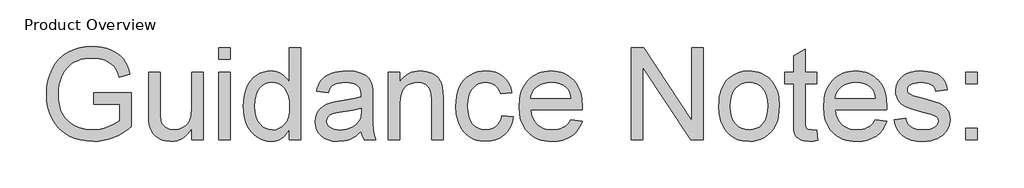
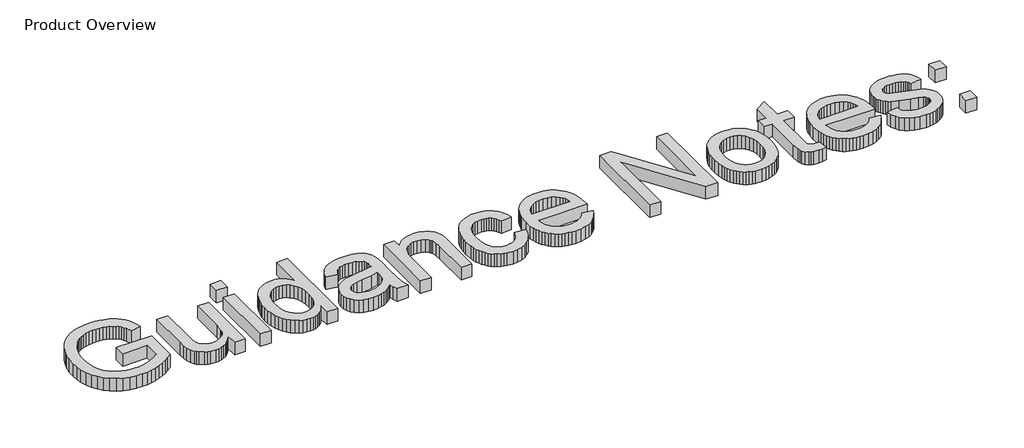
# One storey, part 9 of 11: 1 proxy.
"""IFC4 building model written with IfcOpenShell, lengths in millimetres."""

from ifc_helpers import new_model, si_unit, origin, origin_with_axes, place, context, project, spatial, polyline, outline, extrude, element, save

model = new_model("IFC4")

# Units and contexts
model_context = context("Model", 3, world=origin())
ifc_project = project(units=[si_unit("LENGTHUNIT", "METRE", prefix="MILLI")], contexts=[model_context])

# Site, building, storey
site = spatial("IfcSite", under=ifc_project)
building = spatial("IfcBuilding", under=site)
storey = spatial("IfcBuildingStorey", under=building, Name="Product Overview", Elevation=0.0)

# Proxy
placement = place(None, origin())
element("IfcBuildingElementProxy", 1, Name="1000mm", ObjectType="1000mm", at=placement, inside=storey, context=model_context, shape_type="SweptSolid", body=[
    extrude(outline(polyline([(8665.372592, -8459.5655223), (8665.372592, -8337.1412799), (9063.2513799, -8337.1412799), (9063.2513799, -8703.2184579), (9015.2874387, -8739.2194345), (8966.5613349, -8770.4681028), (8917.0730684, -8796.9644629), (8866.8226393, -8818.7085147), (8815.8698251, -8835.6554252), (8764.2744031, -8847.7603613), (8712.0363734, -8855.023323), (8659.1557359, -8857.4443102), (8588.8350239, -8853.5961361), (8521.8170167, -8842.0516137), (8458.1017143, -8822.8107431), (8397.6891166, -8795.8735242), (8342.5294634, -8761.643455), (8294.5729945, -8720.5240332), (8253.8197097, -8672.5152589), (8220.269609, -8617.6171322), (8194.0646641, -8557.5856158), (8175.3468463, -8494.1766729), (8164.1161556, -8427.3903033), (8160.372592, -8357.2265072), (8164.1012112, -8287.0552388), (8175.2870688, -8219.2900133), (8193.9301648, -8153.9308307), (8220.0304992, -8090.9776909), (8253.1247967, -8033.1953015), (8292.7497819, -7983.3483703), (8338.9054548, -7941.4368972), (8391.5918155, -7907.4608822), (8449.6656199, -7881.2036319), (8511.9836242, -7862.4484532), (8578.5458283, -7851.1953459), (8649.3522321, -7847.4443102), (8701.0447925, -7849.6187154), (8750.1968107, -7856.1419309), (8796.8082868, -7867.0139568), (8840.8792208, -7882.2347931), (8881.3709792, -7901.3336923), (8917.2449286, -7923.8399068), (8948.5010691, -7949.7534366), (8975.1394007, -7979.0742818), (8998.0117521, -8012.4674666), (9017.9699523, -8050.5980152), (9035.0140012, -8093.4659277), (9049.1438988, -8141.0712041), (8936.2840503, -8172.872814), (8911.08785, -8108.3430436), (8896.449844, -8082.0185437), (8880.4519007, -8059.6543007), (8861.9806649, -8040.286403), (8839.9227814, -8022.950939), (8814.2782501, -8007.6479087), (8785.0470712, -7994.3773121), (8753.1782117, -7983.6547298), (8719.6206389, -7975.9957425), (8684.3743528, -7971.4003501), (8647.4393534, -7969.8685526), (8603.6598345, -7971.519905), (8562.9439106, -7976.4739622), (8525.2915817, -7984.7307241), (8490.7028477, -7996.2901909), (8459.2449582, -8010.5321712), (8430.985163, -8026.836474), (8405.923462, -8045.2030992), (8384.0598552, -8065.6320469), (8348.0439343, -8110.6743646), (8321.0544102, -8159.9608822), (8304.3167208, -8205.2423097), (8292.3612284, -8252.3768386), (8285.1879329, -8301.3644688), (8282.7968344, -8352.2052003), (8285.6736248, -8413.3351275), (8294.3039959, -8469.2793599), (8308.6879477, -8520.0378974), (8328.8254802, -8565.6107401), (8354.4550671, -8605.8260278), (8385.315182, -8640.5119001), (8421.4058247, -8669.6683573), (8462.7269954, -8693.2953992), (8507.3433987, -8711.5499417), (8553.3197392, -8724.5889006), (8600.6560171, -8732.412276), (8649.3522321, -8735.0200678), (8692.0109235, -8733.0548837), (8734.1465622, -8727.1593315), (8775.759148, -8717.3334112), (8816.848681, -8703.5771227), (8888.6713017, -8671.088072), (8940.8271374, -8636.5068102), (8940.8271374, -8459.5655223), (8665.372592, -8459.5655223)])), origin_with_axes(), (0.0, 0.0, 1.0), 150.0),
    extrude(outline(polyline([(9705.9786526, -8842.1412799), (9705.9786526, -8718.5214882), (9684.7427092, -8751.0815246), (9661.6835532, -8779.3002228), (9636.8011846, -8803.1775829), (9610.0956034, -8822.7136047), (9581.5668096, -8837.9082883), (9551.2148032, -8848.7616338), (9519.0395842, -8855.2736411), (9485.0411526, -8857.4443102), (9425.4131341, -8851.347009), (9397.1458667, -8843.7253826), (9369.9097606, -8833.0551056), (9323.3431176, -8805.5574731), (9305.2156022, -8789.4773358), (9290.5252909, -8771.8429844), (9268.4375186, -8730.8954229), (9254.061039, -8681.6985715), (9248.6810674, -8635.3112609), (9246.8877435, -8567.8822837), (9246.8877435, -8122.8988556), (9369.3119859, -8122.8988556), (9369.3119859, -8510.2568102), (9371.1650873, -8587.7284011), (9376.7243912, -8635.0721511), (9384.0546025, -8657.1375068), (9394.5679637, -8676.7071535), (9408.2644747, -8693.7810911), (9425.1441356, -8708.3593197), (9444.6988378, -8720.023397), (9466.4204731, -8728.3548807), (9490.3090414, -8733.353771), (9516.3645427, -8735.0200678), (9543.1971511, -8733.3164101), (9569.1779305, -8728.2054371), (9594.3068812, -8719.6871487), (9618.584003, -8707.761545), (9640.6941918, -8692.8993735), (9659.3223434, -8675.5713817), (9674.4684579, -8655.7775695), (9686.1325352, -8633.5179371), (9694.8152115, -8607.3727696), (9701.0171232, -8575.9223523), (9705.9786526, -8497.1057685), (9705.9786526, -8122.8988556), (9828.402895, -8122.8988556), (9828.402895, -8842.1412799), (9705.9786526, -8842.1412799)])), origin_with_axes(), (0.0, 0.0, 1.0), 150.0),
    extrude(outline(polyline([(9996.7362284, -8842.1412799), (9996.7362284, -8122.8988556), (10119.1604708, -8122.8988556), (10119.1604708, -8842.1412799), (9996.7362284, -8842.1412799)])), origin_with_axes(), (0.0, 0.0, 1.0), 150.0),
    extrude(outline(polyline([(9996.7362284, -7985.1715829), (9996.7362284, -7862.7473405), (10119.1604708, -7862.7473405), (10119.1604708, -7985.1715829), (9996.7362284, -7985.1715829)])), origin_with_axes(), (0.0, 0.0, 1.0), 150.0),
    extrude(outline(polyline([(10746.5847132, -8842.1412799), (10746.5847132, -8726.6512231), (10729.2380409, -8757.3058529), (10709.9560733, -8783.8731987), (10688.7388103, -8806.3532605), (10665.586252, -8824.7460384), (10640.4983984, -8839.0515323), (10613.4752494, -8849.2697422), (10584.5168051, -8855.4006682), (10553.6230655, -8857.4443102), (10513.2135011, -8854.4853258), (10474.4777056, -8845.6083727), (10437.4156791, -8830.8134508), (10402.0274215, -8810.1005602), (10369.4188159, -8784.089892), (10340.6957454, -8753.4016374), (10315.8582099, -8718.0357963), (10294.9062094, -8677.9923689), (10278.2731306, -8634.0335177), (10266.39236, -8586.9214054), (10259.2638976, -8536.6560319), (10256.8877435, -8483.2373973), (10259.0770931, -8430.7976187), (10265.6451417, -8380.8386047), (10276.5918895, -8333.3603554), (10291.9173363, -8288.3628708), (10311.6140101, -8247.161255), (10335.6744386, -8211.0706123), (10364.0986218, -8180.0909425), (10396.8865598, -8154.2222458), (10432.8800642, -8133.8231868), (10470.9209466, -8119.2524305), (10511.0092072, -8110.5099766), (10553.1448458, -8107.5958253), (10583.9601275, -8109.6805643), (10613.0418628, -8115.9347813), (10640.3900517, -8126.3584763), (10666.0046943, -8140.9516492), (10689.6018474, -8158.8774157), (10710.8975683, -8179.2988912), (10729.8918569, -8202.2160757), (10746.5847132, -8227.6289693), (10746.5847132, -7862.7473405), (10869.0089556, -7862.7473405), (10869.0089556, -8842.1412799), (10746.5847132, -8842.1412799)]), holes=[polyline([(10379.3119859, -8482.7591776), (10382.7641344, -8542.1256697), (10393.1205797, -8593.4969262), (10410.3813219, -8636.8729471), (10434.5463609, -8672.2537325), (10463.4039308, -8699.7140042), (10494.7422653, -8719.328484), (10528.5613645, -8731.0971718), (10564.8612284, -8735.0200678), (10601.3329524, -8731.2765042), (10634.9503027, -8720.0458135), (10665.7132791, -8701.3279957), (10693.6218818, -8675.1230507), (10716.7931205, -8641.2217575), (10733.3440053, -8599.4148949), (10743.2745362, -8549.702463), (10746.5847132, -8492.0844617), (10743.2147588, -8428.9146286), (10733.1048955, -8374.7413036), (10716.2551234, -8329.5644866), (10692.6654424, -8293.3841776), (10664.1441208, -8265.6623796), (10632.4994267, -8245.8610952), (10597.7313603, -8233.9803246), (10559.8399215, -8230.0200678), (10522.8227281, -8233.8234088), (10489.0036289, -8245.2334319), (10458.382624, -8264.250137), (10430.9597132, -8290.8735242), (10408.3638325, -8325.6864237), (10392.2239177, -8369.2716658), (10382.5399689, -8421.6292504), (10379.3119859, -8482.7591776)])]), origin_with_axes(), (0.0, 0.0, 1.0), 150.0),
    extrude(outline(polyline([(11511.7362284, -8750.3230981), (11482.7067983, -8777.5666764), (11453.2439817, -8800.4763888), (11423.3477784, -8819.0522351), (11393.0181886, -8833.2942155), (11361.9114917, -8843.8598819), (11329.6839675, -8851.4067865), (11261.8664367, -8857.4443102), (11207.3568634, -8853.8128294), (11159.5573103, -8842.9183869), (11118.4677772, -8824.7609828), (11084.0882643, -8799.340617), (11056.9418244, -8768.2712811), (11037.5515101, -8733.1669664), (11025.9173215, -8694.0276731), (11022.0392587, -8650.8534011), (11027.8974499, -8600.1023358), (11045.4720238, -8554.0139125), (11072.5811029, -8514.5607875), (11107.0428098, -8483.715617), (11147.5420404, -8460.4024068), (11192.7636905, -8443.5451625), (11236.8196801, -8434.1601009), (11298.6893534, -8425.1337041), (11423.863359, -8405.7658064), (11472.1934372, -8394.8265308), (11511.0188988, -8383.0503708), (11511.7362284, -8355.7918481), (11509.6290728, -8326.1123381), (11503.3076062, -8301.1552477), (11492.7718285, -8280.9205768), (11478.0217397, -8265.4083253), (11452.5266521, -8249.9259626), (11421.4722606, -8238.8671322), (11384.858565, -8232.2318339), (11342.6855655, -8230.0200678), (11303.4715503, -8231.4920878), (11269.7570617, -8235.9081478), (11241.5420996, -8243.2682478), (11218.826664, -8253.5723878), (11200.1611514, -8267.6275636), (11184.0959585, -8286.2407709), (11170.6310851, -8309.4120096), (11159.7665314, -8337.1412799), (11037.342289, -8321.8382496), (11046.6601009, -8286.5695469), (11058.5931767, -8254.887492), (11073.1415166, -8226.7920848), (11090.3051204, -8202.2833253), (11110.8237343, -8180.8680495), (11135.4371043, -8162.0530933), (11164.1452305, -8145.8384567), (11196.9481128, -8132.2241397), (11233.1807271, -8121.4492522), (11272.1780489, -8113.7529039), (11313.9400784, -8109.135095), (11358.4668155, -8107.5958253), (11441.2287118, -8113.0355744), (11476.1761106, -8119.8352607), (11506.8344765, -8129.3548215), (11556.3003264, -8153.8934698), (11575.3618646, -8168.2475328), (11590.6424784, -8183.9914219), (11613.4176914, -8221.2028921), (11628.1827246, -8267.0820943), (11632.6660342, -8309.4045375), (11634.1604708, -8374.2033064), (11634.1604708, -8526.5162799), (11635.7146848, -8659.1923571), (11640.3773268, -8739.2044901), (11649.583056, -8791.778768), (11664.7665314, -8842.1412799), (11542.342289, -8842.1412799), (11522.7352814, -8799.5797269), (11511.7362284, -8750.3230981)]), holes=[polyline([(11511.7362284, -8505.4746132), (11429.4824405, -8525.8587278), (11314.2314935, -8543.0148594), (11250.71794, -8552.399921), (11208.9036052, -8562.8609769), (11181.4956389, -8576.4304608), (11161.2011905, -8595.1408064), (11148.6479234, -8617.5573547), (11144.4635011, -8642.2454465), (11146.7425168, -8661.2696239), (11153.5795641, -8678.649921), (11164.9746428, -8694.3863379), (11180.927753, -8708.4788746), (11201.289451, -8720.0906466), (11225.9102932, -8728.3847695), (11254.7902796, -8733.3612432), (11287.9294102, -8735.0200678), (11321.7634537, -8733.189383), (11353.6846185, -8727.6973287), (11383.6929045, -8718.5439048), (11411.7883117, -8705.7291113), (11437.1339556, -8690.3139983), (11458.8929518, -8673.3596156), (11477.0653003, -8654.8659632), (11491.6510011, -8634.8330412), (11500.1244563, -8616.8998026), (11506.1769244, -8595.1408064), (11511.0188988, -8540.1455412), (11511.7362284, -8505.4746132)])]), origin_with_axes(), (0.0, 0.0, 1.0), 150.0),
    extrude(outline(polyline([(11802.4938041, -8842.1412799), (11802.4938041, -8122.8988556), (11924.9180465, -8122.8988556), (11924.9180465, -8223.324992), (11945.1153565, -8196.2009686), (11967.4497108, -8172.6934816), (11991.9211094, -8152.8025311), (12018.5295522, -8136.528117), (12047.2750393, -8123.8702394), (12078.1575707, -8114.8288983), (12111.1771463, -8109.4040936), (12146.3337662, -8107.5958253), (12206.6791142, -8113.4241279), (12261.943378, -8130.9090356), (12286.6464142, -8143.477247), (12308.0318013, -8157.868671), (12326.0995392, -8174.0833076), (12340.849628, -8192.1211568), (12363.1167326, -8233.5768268), (12377.5529897, -8282.1460147), (12382.3949641, -8328.5931028), (12384.0089556, -8400.5053897), (12384.0089556, -8842.1412799), (12261.5847132, -8842.1412799), (12261.5847132, -8417.0039693), (12258.0578429, -8353.6996369), (12247.4772321, -8308.6872079), (12239.0710265, -8291.6581034), (12227.9598908, -8276.4372671), (12197.6228287, -8251.4203992), (12158.7375896, -8235.3701506), (12113.575717, -8230.0200678), (12076.4016077, -8233.0238852), (12041.8726512, -8242.0353376), (12009.9888473, -8257.054425), (11980.7501962, -8278.0811473), (11956.3236307, -8307.506603), (11938.8760839, -8347.7218907), (11928.4075559, -8398.7270102), (11924.9180465, -8460.5219617), (11924.9180465, -8842.1412799), (11802.4938041, -8842.1412799)])), origin_with_axes(), (0.0, 0.0, 1.0), 150.0),
    extrude(outline(polyline([(13011.4331981, -8581.9897647), (13133.8574405, -8597.292795), (13120.5420108, -8655.06024), (13099.7245096, -8706.1774423), (13071.4049369, -8750.6444019), (13035.5832927, -8788.4611189), (12993.768958, -8818.6412651), (12947.4713136, -8840.1985124), (12896.6903595, -8853.1328607), (12841.4260958, -8857.4443102), (12772.7642083, -8851.4292031), (12741.0952297, -8843.9103192), (12711.2008945, -8833.3838817), (12683.0812028, -8819.8498906), (12656.7361544, -8803.3083461), (12632.1657494, -8783.7592479), (12609.3699878, -8761.2025962), (12588.8308254, -8735.8364037), (12571.0302181, -8707.8586834), (12555.9681656, -8677.2694352), (12543.6446682, -8644.0686591), (12534.0597258, -8608.2563552), (12527.2133383, -8569.8325234), (12521.7362284, -8485.1502761), (12524.0750216, -8428.8623233), (12531.0914012, -8376.2058514), (12542.7853672, -8327.1808603), (12559.1569196, -8281.78735), (12580.3181412, -8240.9369268), (12606.3811147, -8205.541197), (12637.3458401, -8175.6001607), (12673.2123174, -8151.1138178), (12712.3590829, -8132.0746961), (12753.164673, -8118.4753234), (12795.6290876, -8110.3156999), (12839.7523268, -8107.5958253), (12894.0676234, -8111.3319167), (12943.197225, -8122.5401909), (12987.1411319, -8141.2206478), (13025.8993439, -8167.3732875), (13058.814309, -8200.4003353), (13085.228475, -8239.7040166), (13105.1418421, -8285.2843315), (13118.5544102, -8337.1412799), (12996.1301677, -8352.4443102), (12986.573246, -8323.8482667), (12973.9228406, -8299.0331478), (12958.1789515, -8277.9989533), (12939.3415787, -8260.7456833), (12917.888942, -8247.3032265), (12894.299261, -8237.7014716), (12868.5725358, -8231.9404187), (12840.7087662, -8230.0200678), (12799.1111248, -8233.8009922), (12761.5932951, -8245.1437657), (12728.1552772, -8264.0483881), (12698.7970712, -8290.5148594), (12674.8935585, -8325.1558987), (12657.8196209, -8368.584225), (12647.5752583, -8420.7998381), (12644.1604708, -8481.8027382), (12647.5005365, -8543.7247168), (12657.5207336, -8596.5455768), (12674.221062, -8640.2653181), (12697.6015219, -8674.8839409), (12726.3768977, -8701.1934964), (12759.2619741, -8719.986036), (12796.256751, -8731.2615598), (12837.3612284, -8735.0200678), (12870.4854146, -8732.6738024), (12900.7552269, -8725.6350062), (12928.1706655, -8713.9036793), (12952.7317302, -8697.4798215), (12973.7509804, -8676.1841007), (12990.540975, -8649.8371842), (13003.1017143, -8618.4390723), (13011.4331981, -8581.9897647)])), origin_with_axes(), (0.0, 0.0, 1.0), 150.0),
    extrude(outline(polyline([(13744.5439935, -8627.8988556), (13864.5771374, -8643.2018859), (13846.1731513, -8691.2779099), (13821.3281436, -8733.6451861), (13790.0421144, -8770.3037148), (13752.3150636, -8801.2534958), (13708.5355448, -8825.8369771), (13659.0921114, -8843.3966066), (13603.9847635, -8853.9323843), (13543.2135011, -8857.4443102), (13504.1974988, -8855.9293251), (13467.2512911, -8851.38437), (13432.374878, -8843.8094447), (13399.5682596, -8833.2045493), (13368.8314358, -8819.5696838), (13340.1644066, -8802.9048482), (13313.5671721, -8783.2100425), (13289.0397321, -8760.4852666), (13267.0154734, -8735.0256719), (13247.9277826, -8707.1264095), (13231.7766595, -8676.7874794), (13218.5621043, -8644.0088817), (13208.2841169, -8608.7906163), (13200.9426973, -8571.1326832), (13195.0695617, -8488.497814), (13201.0024748, -8403.0608762), (13208.4186162, -8364.1420123), (13218.8012141, -8327.7562183), (13232.1502687, -8293.9034943), (13248.4657797, -8262.5838403), (13267.7477474, -8233.7972561), (13289.9961715, -8207.543742), (13314.6095416, -8184.118449), (13340.9863467, -8163.8165285), (13369.126587, -8146.6379803), (13399.0302624, -8132.5828045), (13430.697373, -8121.6510011), (13464.1279187, -8113.8425701), (13499.3218995, -8109.1575115), (13536.2793155, -8107.5958253), (13572.0281059, -8109.1537754), (13606.1068634, -8113.8276258), (13638.5155881, -8121.6173763), (13669.25428, -8132.523027), (13698.322939, -8146.544578), (13725.7215651, -8163.6820292), (13751.4501584, -8183.9353806), (13775.5087189, -8207.3046322), (13797.2807914, -8233.4983688), (13816.1499209, -8262.2251755), (13832.1161075, -8293.4850521), (13845.179351, -8327.2779986), (13855.3396515, -8363.6040151), (13862.597009, -8402.4631016), (13868.402895, -8487.7804844), (13867.6855655, -8520.7776435), (13317.4938041, -8520.7776435), (13324.5849056, -8569.6307744), (13338.6849144, -8612.416493), (13359.7938307, -8649.1347991), (13387.9116545, -8679.7856928), (13421.4841717, -8703.9507318), (13458.9571682, -8721.211474), (13500.3306442, -8731.5679193), (13545.6045996, -8735.0200678), (13579.4685319, -8733.4210207), (13610.7620333, -8728.6238793), (13639.4851038, -8720.6286438), (13665.6377435, -8709.435314), (13689.2199523, -8694.7450027), (13710.2317302, -8676.2588225), (13728.6730773, -8653.9767735), (13744.5439935, -8627.8988556)]), holes=[polyline([(13317.4938041, -8398.3534011), (13745.9786526, -8398.3534011), (13739.6870747, -8363.7123618), (13729.4202956, -8333.6741871), (13715.1783152, -8308.2388769), (13696.9611337, -8287.4064314), (13663.5754211, -8262.2998973), (13625.5868439, -8244.3666587), (13582.9954021, -8233.6067155), (13535.8010958, -8230.0200678), (13492.7538509, -8232.8819138), (13453.2783093, -8241.4674518), (13417.3744711, -8255.7766818), (13385.0423363, -8275.8096037), (13357.9108407, -8300.6396671), (13337.6089201, -8329.3403211), (13324.1365746, -8361.9115657), (13317.4938041, -8398.3534011)])]), origin_with_axes(), (0.0, 0.0, 1.0), 150.0),
    extrude(outline(polyline([(14388.7059253, -8842.1412799), (14388.7059253, -7862.7473405), (14519.7381223, -7862.7473405), (15031.4331981, -8638.6587988), (15031.4331981, -7862.7473405), (15153.8574405, -7862.7473405), (15153.8574405, -8842.1412799), (15022.8252435, -8842.1412799), (14511.1301677, -8065.9907117), (14511.1301677, -8842.1412799), (14388.7059253, -8842.1412799)])), origin_with_axes(), (0.0, 0.0, 1.0), 150.0),
    extrude(outline(polyline([(15322.1907738, -8482.5200678), (15323.8458623, -8434.3356972), (15328.8111277, -8389.3718374), (15337.0865702, -8347.6284884), (15348.6721895, -8309.1056501), (15363.5679859, -8273.8033227), (15381.7739592, -8241.721506), (15403.2901095, -8212.8602), (15428.1164367, -8187.2194049), (15474.7727459, -8152.3840888), (15526.2710295, -8127.5017202), (15582.6112875, -8112.5722991), (15643.79352, -8107.5958253), (15711.33458, -8113.6557656), (15742.6785187, -8121.2306908), (15772.4047298, -8131.8355862), (15800.5132133, -8145.4704517), (15827.0039692, -8162.1352873), (15851.8769976, -8181.8300931), (15875.1322984, -8204.5548689), (15896.1758331, -8229.9509501), (15914.4135632, -8257.6596718), (15929.8454887, -8287.6810341), (15942.4716095, -8320.015037), (15952.2919257, -8354.6616804), (15959.3064373, -8391.6209644), (15964.9180465, -8472.4774541), (15962.4372819, -8538.008497), (15954.9949878, -8596.1570233), (15942.5911644, -8646.923033), (15925.2258117, -8690.3065261), (15903.1156229, -8727.7795227), (15876.4772913, -8760.8140427), (15845.310817, -8789.4100861), (15809.6161999, -8813.567653), (15770.7832661, -8832.7636905), (15730.2018415, -8846.4751459), (15687.8719262, -8854.7020191), (15643.79352, -8857.4443102), (15575.2661319, -8851.4067865), (15543.585945, -8843.8598819), (15513.6280963, -8833.2942155), (15485.3925856, -8819.7097872), (15458.8794131, -8803.1065971), (15434.0885788, -8783.4846452), (15411.0200825, -8760.8439314), (15390.2007133, -8735.3637882), (15372.15726, -8707.2235479), (15356.8897225, -8676.4232105), (15344.398101, -8642.9627761), (15334.6823953, -8606.8422446), (15327.7426056, -8568.0616161), (15322.1907738, -8482.5200678)]), holes=[polyline([(15444.6150162, -8482.2809579), (15448.1568309, -8541.6623943), (15458.7822748, -8593.078484), (15476.4913479, -8636.5292267), (15501.2840503, -8672.0146227), (15531.44178, -8699.5795049), (15565.2459348, -8719.2687065), (15602.6965148, -8731.0822274), (15643.79352, -8735.0200678), (15684.6813041, -8731.0598109), (15721.9824405, -8719.1790403), (15755.6969291, -8699.377756), (15785.82477, -8671.6559579), (15810.6174724, -8635.8193694), (15828.3265456, -8591.6737136), (15838.9519895, -8539.2189906), (15842.4938041, -8478.4552003), (15838.9295729, -8420.956754), (15828.2368794, -8370.8856573), (15810.4157235, -8328.2419102), (15785.4661052, -8293.0255128), (15755.2261816, -8265.4606306), (15721.5341095, -8245.771429), (15684.389889, -8233.9579081), (15643.79352, -8230.0200678), (15602.6965148, -8233.9429637), (15565.2459348, -8245.7116516), (15531.44178, -8265.3261313), (15501.2840503, -8292.786403), (15476.4913479, -8328.1671884), (15458.7822748, -8371.5432093), (15448.1568309, -8422.9144658), (15444.6150162, -8482.2809579)])]), origin_with_axes(), (0.0, 0.0, 1.0), 150.0),
    extrude(outline(polyline([(16362.7968344, -8740.0413746), (16378.0998647, -8845.7279276), (16329.6203429, -8854.5152145), (16286.5207927, -8857.4443102), (16227.7595475, -8852.3632259), (16203.9830619, -8846.0118706), (16183.9426677, -8837.1199731), (16152.9779424, -8813.6274305), (16132.7731602, -8783.7984769), (16126.2873055, -8762.7418658), (16121.6545522, -8732.5691918), (16117.9483496, -8644.8756549), (16117.9483496, -8245.3230981), (16026.1301677, -8245.3230981), (16026.1301677, -8122.8988556), (16117.9483496, -8122.8988556), (16117.9483496, -7948.1095564), (16240.372592, -7876.137492), (16240.372592, -8122.8988556), (16362.7968344, -8122.8988556), (16362.7968344, -8245.3230981), (16240.372592, -8245.3230981), (16240.372592, -8641.2890072), (16241.9865835, -8681.5790166), (16246.8285579, -8704.4140072), (16255.2870688, -8717.0569404), (16267.7506696, -8726.770778), (16285.4149097, -8732.9577453), (16309.4753382, -8735.0200678), (16362.7968344, -8740.0413746)])), origin_with_axes(), (0.0, 0.0, 1.0), 150.0),
    extrude(outline(polyline([(16988.7864177, -8627.8988556), (17108.8195617, -8643.2018859), (17090.4155755, -8691.2779099), (17065.5705678, -8733.6451861), (17034.2845386, -8770.3037148), (16996.5574878, -8801.2534958), (16952.777969, -8825.8369771), (16903.3345356, -8843.3966066), (16848.2271878, -8853.9323843), (16787.4559253, -8857.4443102), (16748.439923, -8855.9293251), (16711.4937153, -8851.38437), (16676.6173023, -8843.8094447), (16643.8106838, -8833.2045493), (16613.07386, -8819.5696838), (16584.4068309, -8802.9048482), (16557.8095963, -8783.2100425), (16533.2821564, -8760.4852666), (16511.2578977, -8735.0256719), (16492.1702068, -8707.1264095), (16476.0190838, -8676.7874794), (16462.8045285, -8644.0088817), (16452.5265411, -8608.7906163), (16445.1851216, -8571.1326832), (16439.3119859, -8488.497814), (16445.244899, -8403.0608762), (16452.6610404, -8364.1420123), (16463.0436384, -8327.7562183), (16476.3926929, -8293.9034943), (16492.708204, -8262.5838403), (16511.9901716, -8233.7972561), (16534.2385958, -8207.543742), (16558.8519658, -8184.118449), (16585.228771, -8163.8165285), (16613.3690113, -8146.6379803), (16643.2726867, -8132.5828045), (16674.9397972, -8121.6510011), (16708.3703429, -8113.8425701), (16743.5643238, -8109.1575115), (16780.5217397, -8107.5958253), (16816.2705301, -8109.1537754), (16850.3492877, -8113.8276258), (16882.7580124, -8121.6173763), (16913.4967042, -8132.523027), (16942.5653632, -8146.544578), (16969.9639894, -8163.6820292), (16995.6925827, -8183.9353806), (17019.7511431, -8207.3046322), (17041.5232157, -8233.4983688), (17060.3923452, -8262.2251755), (17076.3585317, -8293.4850521), (17089.4217752, -8327.2779986), (17099.5820757, -8363.6040151), (17106.8394333, -8402.4631016), (17112.6453193, -8487.7804844), (17111.9279897, -8520.7776435), (16561.7362284, -8520.7776435), (16568.8273298, -8569.6307744), (16582.9273387, -8612.416493), (16604.036255, -8649.1347991), (16632.1540787, -8679.7856928), (16665.7265959, -8703.9507318), (16703.1995925, -8721.211474), (16744.5730684, -8731.5679193), (16789.8470238, -8735.0200678), (16823.7109561, -8733.4210207), (16855.0044575, -8728.6238793), (16883.7275281, -8720.6286438), (16909.8801677, -8709.435314), (16933.4623766, -8694.7450027), (16954.4741545, -8676.2588225), (16972.9155016, -8653.9767735), (16988.7864177, -8627.8988556)]), holes=[polyline([(16561.7362284, -8398.3534011), (16990.2210768, -8398.3534011), (16983.929499, -8363.7123618), (16973.6627198, -8333.6741871), (16959.4207395, -8308.2388769), (16941.2035579, -8287.4064314), (16907.8178453, -8262.2998973), (16869.8292681, -8244.3666587), (16827.2378264, -8233.6067155), (16780.04352, -8230.0200678), (16736.9962751, -8232.8819138), (16697.5207336, -8241.4674518), (16661.6168954, -8255.7766818), (16629.2847606, -8275.8096037), (16602.1532649, -8300.6396671), (16581.8513444, -8329.3403211), (16568.3789988, -8361.9115657), (16561.7362284, -8398.3534011)])]), origin_with_axes(), (0.0, 0.0, 1.0), 150.0),
    extrude(outline(polyline([(17189.1604708, -8627.8988556), (17311.5847132, -8612.5958253), (17318.9821741, -8640.5119001), (17330.8928335, -8664.9608822), (17347.3166912, -8685.9427714), (17368.2537473, -8703.4575678), (17393.7637793, -8717.2661615), (17423.9065645, -8727.1294428), (17458.6821031, -8733.0474115), (17498.090395, -8735.0200678), (17537.4538538, -8733.2117995), (17571.3775636, -8727.7869948), (17599.8615243, -8718.7456537), (17622.9057359, -8706.0877761), (17640.6895309, -8690.9939669), (17653.3922416, -8674.644831), (17661.013868, -8657.0403684), (17663.5544102, -8638.1805791), (17660.9989237, -8621.6521108), (17653.3324641, -8606.9767439), (17640.5550316, -8594.1544783), (17622.6666261, -8583.185314), (17576.8173126, -8567.6431738), (17496.6557359, -8548.2752761), (17384.9316592, -8515.9655578), (17312.3020427, -8488.378259), (17287.3673689, -8474.5472488), (17265.6457336, -8458.2803069), (17247.1371369, -8439.5774334), (17231.8415787, -8418.4386284), (17219.8636698, -8395.4990273), (17211.3080205, -8371.3937657), (17206.1746309, -8346.1228436), (17204.4635011, -8319.6862609), (17209.9630276, -8272.2528448), (17226.4616071, -8228.4658537), (17252.4648032, -8190.0588343), (17286.4781791, -8158.7653329), (17320.2823339, -8139.0686591), (17364.3084348, -8122.5401909), (17415.2089438, -8111.3319167), (17469.6363231, -8107.5958253), (17510.7781614, -8109.0977341), (17549.3196801, -8113.6034603), (17585.2608792, -8121.113004), (17618.6017587, -8131.6263651), (17648.5502672, -8144.7026849), (17674.3143534, -8159.9011047), (17695.8940172, -8177.2216243), (17713.2892587, -8196.6642439), (17727.3967397, -8218.908932), (17739.1131223, -8244.6356573), (17748.4384064, -8273.8444197), (17755.372592, -8306.5352193), (17632.9483496, -8321.8382496), (17627.1125748, -8301.3868854), (17617.4958756, -8283.3116752), (17604.0982519, -8267.6126193), (17586.9197037, -8254.2897174), (17565.8855092, -8243.6717457), (17540.9209466, -8236.0874802), (17512.0260159, -8231.5369209), (17479.200717, -8230.0200678), (17441.1224736, -8231.4696712), (17408.9024215, -8235.8184816), (17382.5405607, -8243.0664989), (17362.0368912, -8253.2137231), (17346.6591391, -8265.2887704), (17335.6750304, -8278.3202572), (17329.0845652, -8292.3081833), (17326.8877435, -8307.2525488), (17330.5341687, -8326.0824494), (17341.4734443, -8342.8799162), (17360.1837899, -8357.8840592), (17387.1434253, -8369.8993291), (17492.5908685, -8395.9623026), (17600.7581862, -8427.9432448), (17672.2819196, -8453.5877761), (17697.4482312, -8466.09621), (17719.7452246, -8481.1451861), (17739.1728998, -8498.7347044), (17755.7312568, -8518.8647647), (17768.9644924, -8541.565256), (17778.4168036, -8566.8660668), (17784.0881904, -8594.7671973), (17785.9786526, -8625.2686473), (17783.7594143, -8655.9045966), (17777.1016995, -8685.643884), (17766.0055081, -8714.4865095), (17750.4708401, -8742.4324731), (17730.7517498, -8768.3684194), (17707.1022913, -8791.1809934), (17679.5224647, -8810.870195), (17648.01227, -8827.4360242), (17613.4310082, -8840.5646493), (17576.6379802, -8849.9422387), (17537.6331862, -8855.5687923), (17496.4166261, -8857.4443102), (17430.5269185, -8853.8277737), (17372.9761668, -8842.9781644), (17323.7643711, -8824.8954821), (17282.8915314, -8799.5797269), (17249.5058188, -8767.1504537), (17222.7554045, -8727.7272174), (17202.6402885, -8681.310018), (17189.1604708, -8627.8988556)])), origin_with_axes(), (0.0, 0.0, 1.0), 150.0),
    extrude(outline(polyline([(17954.3119859, -8842.1412799), (17954.3119859, -8719.7170375), (18076.7362284, -8719.7170375), (18076.7362284, -8842.1412799), (17954.3119859, -8842.1412799)])), origin_with_axes(), (0.0, 0.0, 1.0), 150.0),
    extrude(outline(polyline([(17954.3119859, -8245.3230981), (17954.3119859, -8122.8988556), (18076.7362284, -8122.8988556), (18076.7362284, -8245.3230981), (17954.3119859, -8245.3230981)])), origin_with_axes(), (0.0, 0.0, 1.0), 150.0),
])

save(model, "model.ifc")
